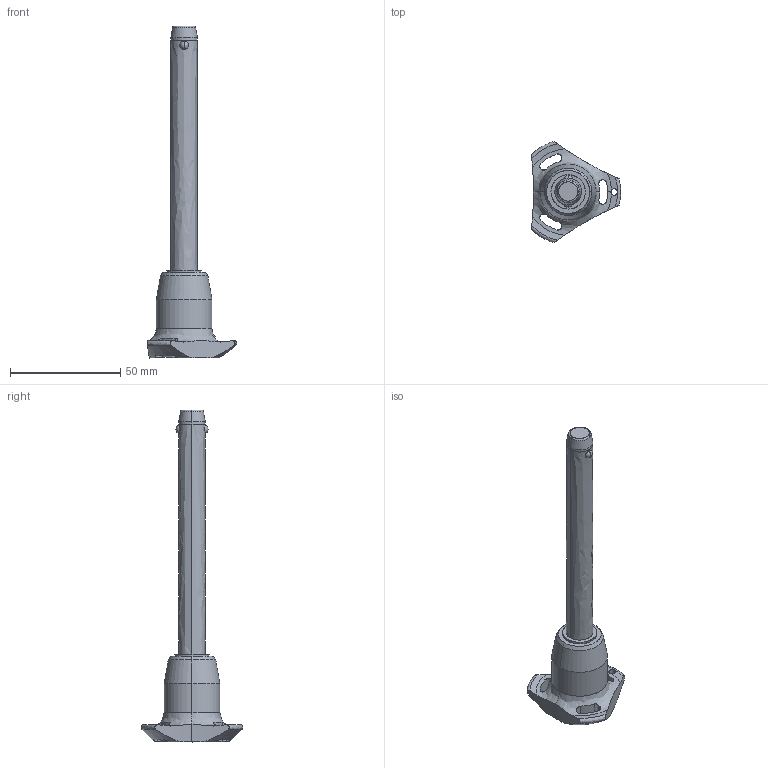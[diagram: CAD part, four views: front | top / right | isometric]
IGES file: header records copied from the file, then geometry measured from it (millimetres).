
Start section: SolidWorks IGES file using analytic representation for surfaces
Global section: file name: C:\Users\ianosborn\Desktop\QR1726_v2\QR1726_v2_20251115_IGES\QR1726.M12-100-T.igs; native system: SolidWorks 2019; preprocessor: SolidWorks 2019; author: IanOsborn; date: 251113.111714; units: millimetre
Bounding box: 40.5 x 45.88 x 150.3 mm (x, y, z)
Surface area: 10043.2 mm2 (no closed solid volume)
Topology: 0 solids, 0 shells, 68 faces, 1386 edges, 1382 vertices
Faces by surface type: revolution 52, bspline 16
